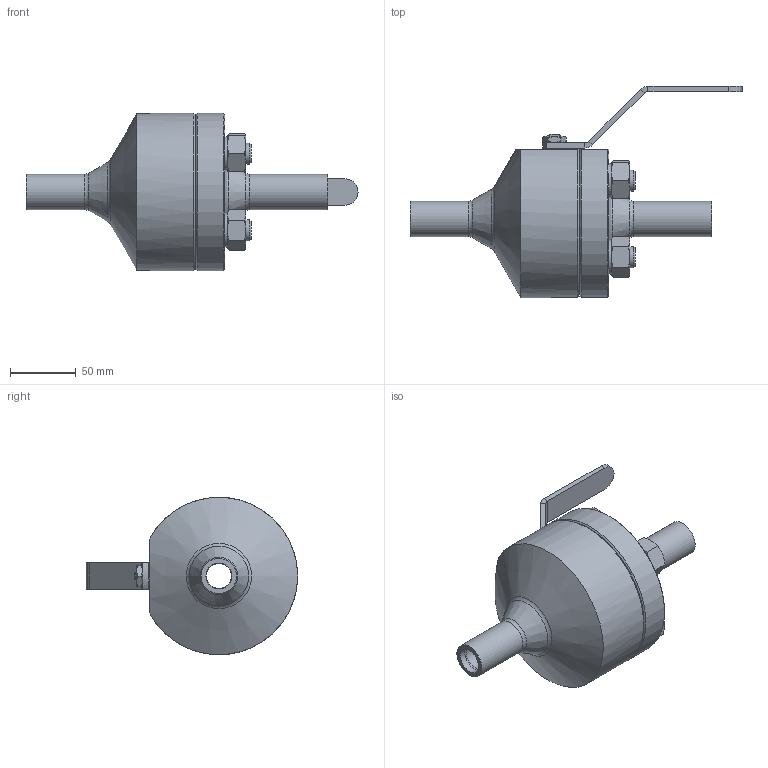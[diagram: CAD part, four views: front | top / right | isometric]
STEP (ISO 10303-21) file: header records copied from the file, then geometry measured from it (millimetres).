
FILE_DESCRIPTION((''),'2;1');
FILE_NAME('C:\Users\Bartek\Desktop\Nowy folder (2)\Nowy folder (22)\WK5b\WK5bc DN20 PN100_Substitute_1.stp','2024-09-16T14:13:52',('Bartek'),(''),'Autodesk Inventor 2012','Autodesk Inventor 2012','');
FILE_SCHEMA(('AUTOMOTIVE_DESIGN { 1 0 10303 214 1 1 1 1 }'));
Length unit declared in the file: millimetre
Products named in the file (1): WK5bc DN20 PN100_Substitute_1
Bounding box: 253 x 161 x 119.81 mm (x, y, z)
Volume: 948008.7 mm3; surface area: 105102.6 mm2
Topology: 1 solids, 1 shells, 186 faces, 415 edges, 249 vertices
Faces by surface type: plane 82, cone 68, cylinder 32, torus 4
Full cylindrical faces by diameter (mm): 16 x4, 19 x1, 19.7 x2, 26 x4, 26.9 x2, 58 x1
Entity records: 4945 total; most frequent: CARTESIAN_POINT 1066, DIRECTION 764, ORIENTED_EDGE 762, EDGE_CURVE 381, AXIS2_PLACEMENT_3D 323, VERTEX_POINT 244, EDGE_LOOP 235, FACE_OUTER_BOUND 186
